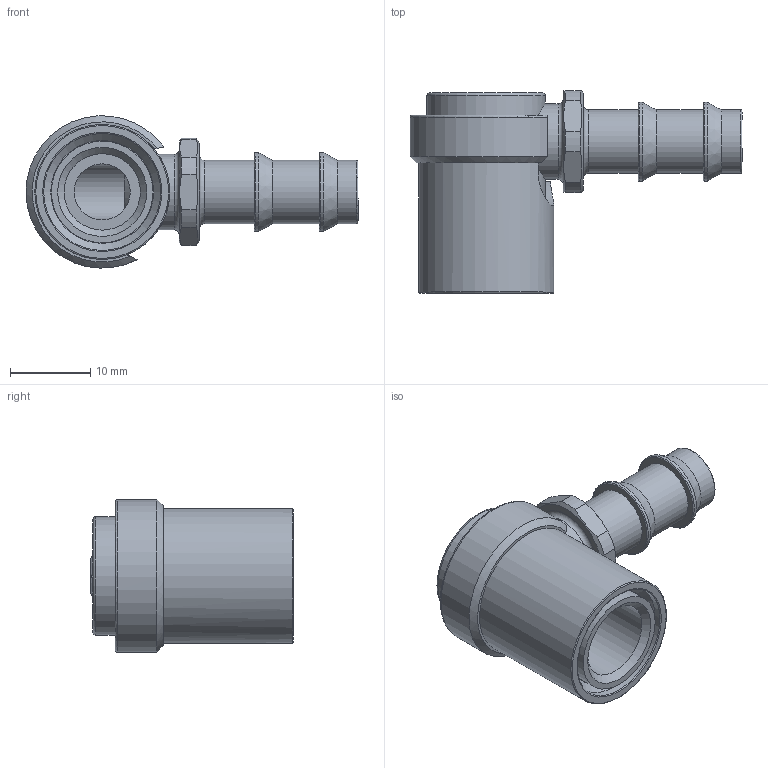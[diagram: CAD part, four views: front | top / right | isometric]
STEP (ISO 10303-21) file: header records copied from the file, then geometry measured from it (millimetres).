
FILE_DESCRIPTION(/* description */ (''),/* implementation_level */ '2;1');
FILE_NAME(/* name */ 'C:/Users/drich/Desktop/SJ200-5 v1.step',/* time_stamp */ '2019-12-29T15:41:52-06:00',/* author */ (''),/* organization */ (''),/* preprocessor_version */ 'ST-DEVELOPER v18',/* originating_system */ 'Autodesk Translation Framework v8.12.0.6',/* authorisation */ '');
FILE_SCHEMA (('AUTOMOTIVE_DESIGN { 1 0 10303 214 3 1 1 }'));
Length unit declared in the file: inch
Products named in the file (6): SJ200-5; CM-218 body; Component2; 200 ser sleeve; 200 ser sleeve_1; SJ200-5 BARB
Assembly tree (5 placements, depth 3):
  SJ200-5
    CM-218 body
      Component2
    200 ser sleeve
      200 ser sleeve_1
    SJ200-5 BARB
Bounding box: 41.48 x 25.27 x 19.02 mm (x, y, z)
Volume: 4629.5 mm3; surface area: 6220.5 mm2
Topology: 4 solids, 4 shells, 86 faces, 237 edges, 166 vertices
Faces by surface type: cylinder 32, plane 30, cone 12, torus 12
Full cylindrical faces by diameter (mm): 6.35 x1, 7.01 x1, 7.023 x1, 7.112 x1, 7.137 x1, 7.925 x3, 9.413 x1, 9.55 x1, 9.652 x1, 9.804 x1, 9.855 x2, 10.109 x2, 10.922 x1, 12.7 x1, 12.852 x1, 14.63 x1, 14.808 x1, 14.91 x1, 16.866 x1
Entity records: 3224 total; most frequent: CARTESIAN_POINT 738, DIRECTION 546, ORIENTED_EDGE 472, AXIS2_PLACEMENT_3D 242, EDGE_CURVE 236, VERTEX_POINT 166, CIRCLE 142, EDGE_LOOP 102
